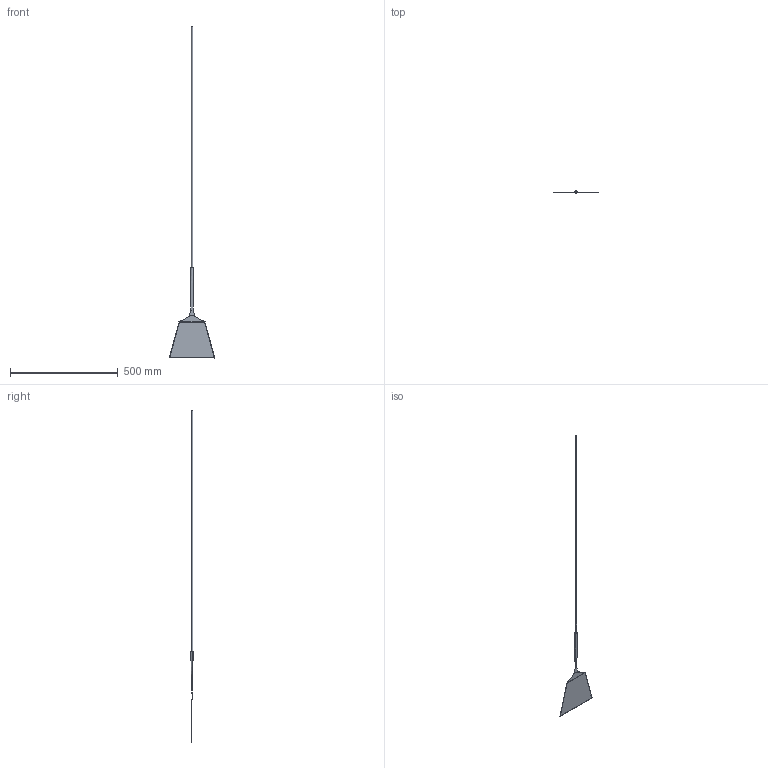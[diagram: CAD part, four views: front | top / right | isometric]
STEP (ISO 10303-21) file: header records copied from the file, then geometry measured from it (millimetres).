
FILE_DESCRIPTION(/* description */ (''),/* implementation_level */ '2;1');
FILE_NAME(/* name */ 'Line One Pendant',/* time_stamp */ '2019-12-09T16:35:56+01:00',/* author */ (''),/* organization */ (''),/* preprocessor_version */ 'ST-DEVELOPER v15',/* originating_system */ '',/* authorisation */ '');
FILE_SCHEMA (('AUTOMOTIVE_DESIGN'));
Length unit declared in the file: millimetre
Products named in the file (1): Document
Bounding box: 210.9 x 11.98 x 1543.67 mm (x, y, z)
Volume: 31778 mm3; surface area: 238493.1 mm2
Topology: 1 solids, 5 shells, 23 faces, 56 edges, 36 vertices
Faces by surface type: bspline 20, plane 3
Entity records: 892 total; most frequent: CARTESIAN_POINT 582, ORIENTED_EDGE 82, EDGE_CURVE 46, VERTEX_POINT 28, ADVANCED_FACE 23, FACE_OUTER_BOUND 23, EDGE_LOOP 23, DIRECTION 13
